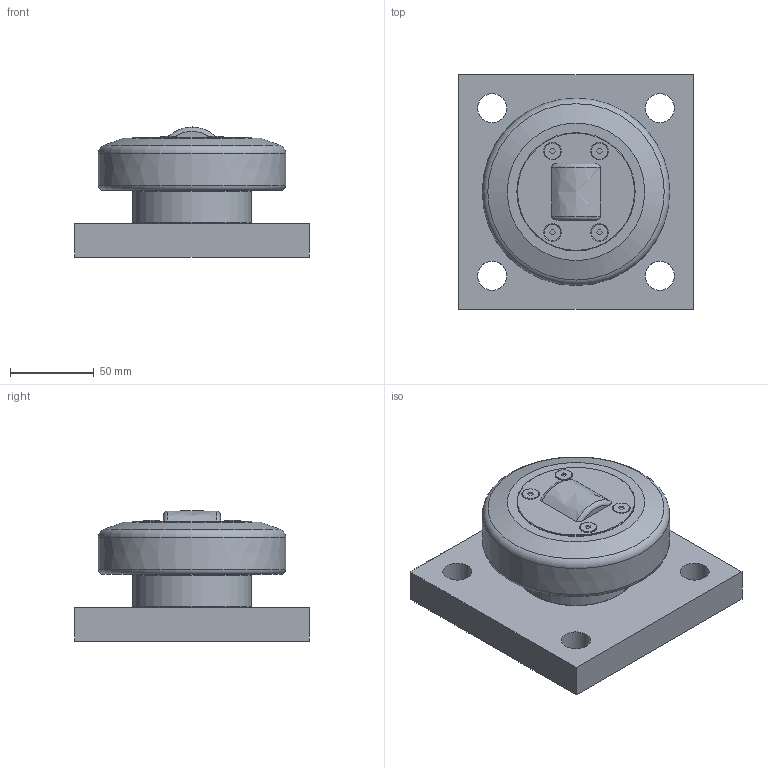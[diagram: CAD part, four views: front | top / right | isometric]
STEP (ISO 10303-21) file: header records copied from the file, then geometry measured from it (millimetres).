
FILE_DESCRIPTION(/* description */ ('-','CAx-IF Rec.Pracs.---Representation and Presentation of Product Manufacturing Information (PMI)---4.0---2014-10-13'),/* implementation_level */ '2;1');
FILE_NAME(/* name */ 'c:\temp\480a54f2-31cd-4def-9ce4-4047b1af81d6\bcffae8b-a032-484e-a590-bfe33ba77587.stp',/* time_stamp */ '2020-04-01T16:19:42+02:00',/* author */ ('-'),/* organization */ ('NTI CADcenter A/S'),/* preprocessor_version */ 'ST-DEVELOPER v18',/* originating_system */ 'Autodesk Inventor 2020',/* authorisation */ '-');
FILE_SCHEMA (('AP242_MANAGED_MODEL_BASED_3D_ENGINEERING_MIM_LF { 1 0 10303 442 1 1 4 }'));
Length unit declared in the file: millimetre
Products named in the file (1): PT 110.0365 BQ1000_Kontur
Bounding box: 140 x 140 x 77.6 mm (x, y, z)
Volume: 748128.1 mm3; surface area: 78321.9 mm2
Topology: 1 solids, 1 shells, 69 faces, 178 edges, 124 vertices
Faces by surface type: plane 44, cylinder 11, cone 8, torus 4, bspline 2
Full cylindrical faces by diameter (mm): 9.75 x4, 17.294 x4, 70.5 x2, 71 x1
Entity records: 2264 total; most frequent: CARTESIAN_POINT 452, DIRECTION 375, ORIENTED_EDGE 356, EDGE_CURVE 178, AXIS2_PLACEMENT_3D 135, VERTEX_POINT 124, LINE 105, VECTOR 105
